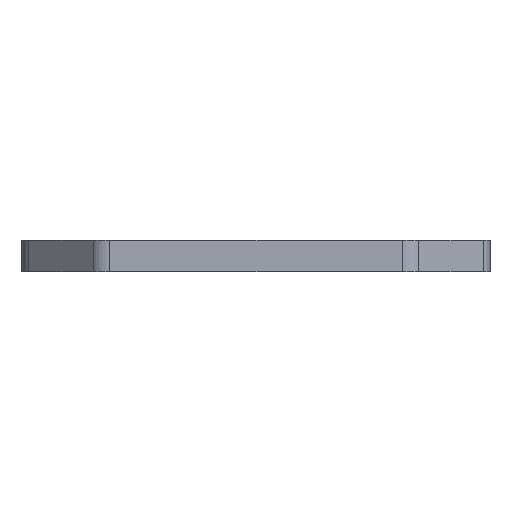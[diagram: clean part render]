
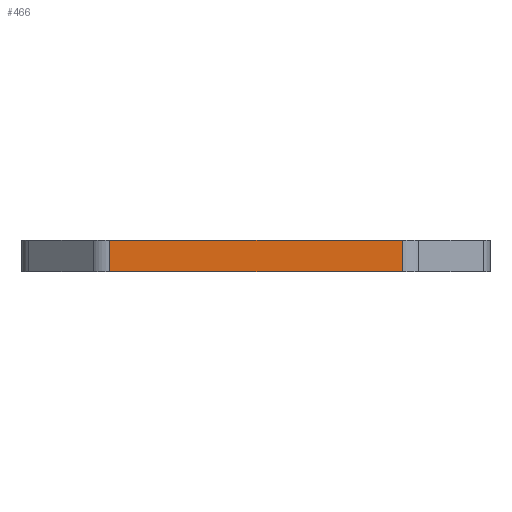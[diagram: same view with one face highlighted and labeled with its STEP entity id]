
A CAD part, front view. The second image highlights one B-rep face of the part: STEP entity #466.
In plain terms, the highlighted planar face has unit normal (0, -1, 0).
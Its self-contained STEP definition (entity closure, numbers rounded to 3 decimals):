
#21 = DIRECTION ( 'NONE',  ( -1., 0., 0. ) ) ;
#79 = VERTEX_POINT ( 'NONE', #1622 ) ;
#117 = LINE ( 'NONE', #503, #696 ) ;
#129 = VECTOR ( 'NONE', #728, 1000. ) ;
#135 = DIRECTION ( 'NONE',  ( 0., -1., 0. ) ) ;
#273 = EDGE_LOOP ( 'NONE', ( #815, #1704, #1083, #1611 ) ) ;
#466 = ADVANCED_FACE ( 'NONE', ( #757 ), #1891, .T. ) ;
#503 = CARTESIAN_POINT ( 'NONE',  ( 18.757, -69.5, 4. ) ) ;
#604 = CARTESIAN_POINT ( 'NONE',  ( 18.757, -69.5, 4. ) ) ;
#657 = VECTOR ( 'NONE', #1567, 1000. ) ;
#696 = VECTOR ( 'NONE', #1456, 1000. ) ;
#728 = DIRECTION ( 'NONE',  ( 0., 0., -1. ) ) ;
#757 = FACE_OUTER_BOUND ( 'NONE', #273, .T. ) ;
#783 = LINE ( 'NONE', #973, #657 ) ;
#815 = ORIENTED_EDGE ( 'NONE', *, *, #1033, .F. ) ;
#973 = CARTESIAN_POINT ( 'NONE',  ( 0., -69.5, 0. ) ) ;
#980 = AXIS2_PLACEMENT_3D ( 'NONE', #2291, #135, #1699 ) ;
#998 = VERTEX_POINT ( 'NONE', #1709 ) ;
#1031 = VECTOR ( 'NONE', #21, 1000. ) ;
#1033 = EDGE_CURVE ( 'NONE', #2537, #998, #783, .T. ) ;
#1045 = EDGE_CURVE ( 'NONE', #79, #998, #1376, .T. ) ;
#1083 = ORIENTED_EDGE ( 'NONE', *, *, #2366, .T. ) ;
#1124 = CARTESIAN_POINT ( 'NONE',  ( -18.757, -69.5, 4. ) ) ;
#1205 = VERTEX_POINT ( 'NONE', #604 ) ;
#1328 = EDGE_CURVE ( 'NONE', #2537, #1205, #117, .T. ) ;
#1376 = LINE ( 'NONE', #1124, #129 ) ;
#1456 = DIRECTION ( 'NONE',  ( 0., 0., 1. ) ) ;
#1470 = CARTESIAN_POINT ( 'NONE',  ( 18.757, -69.5, 0. ) ) ;
#1567 = DIRECTION ( 'NONE',  ( -1., 0., 0. ) ) ;
#1569 = LINE ( 'NONE', #2331, #1031 ) ;
#1611 = ORIENTED_EDGE ( 'NONE', *, *, #1045, .T. ) ;
#1622 = CARTESIAN_POINT ( 'NONE',  ( -18.757, -69.5, 4. ) ) ;
#1699 = DIRECTION ( 'NONE',  ( 0., 0., -1. ) ) ;
#1704 = ORIENTED_EDGE ( 'NONE', *, *, #1328, .T. ) ;
#1709 = CARTESIAN_POINT ( 'NONE',  ( -18.757, -69.5, 0. ) ) ;
#1891 = PLANE ( 'NONE',  #980 ) ;
#2291 = CARTESIAN_POINT ( 'NONE',  ( 0., -69.5, 4. ) ) ;
#2331 = CARTESIAN_POINT ( 'NONE',  ( 0., -69.5, 4. ) ) ;
#2366 = EDGE_CURVE ( 'NONE', #1205, #79, #1569, .T. ) ;
#2537 = VERTEX_POINT ( 'NONE', #1470 ) ;
